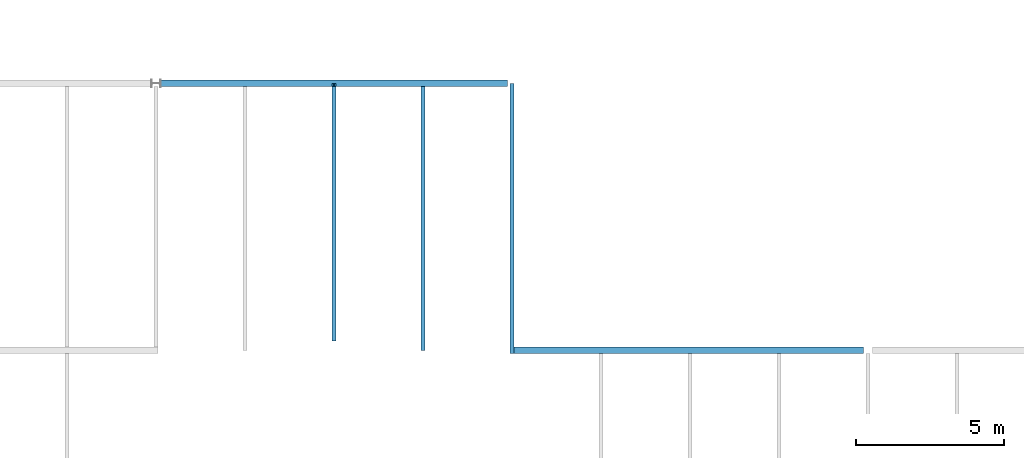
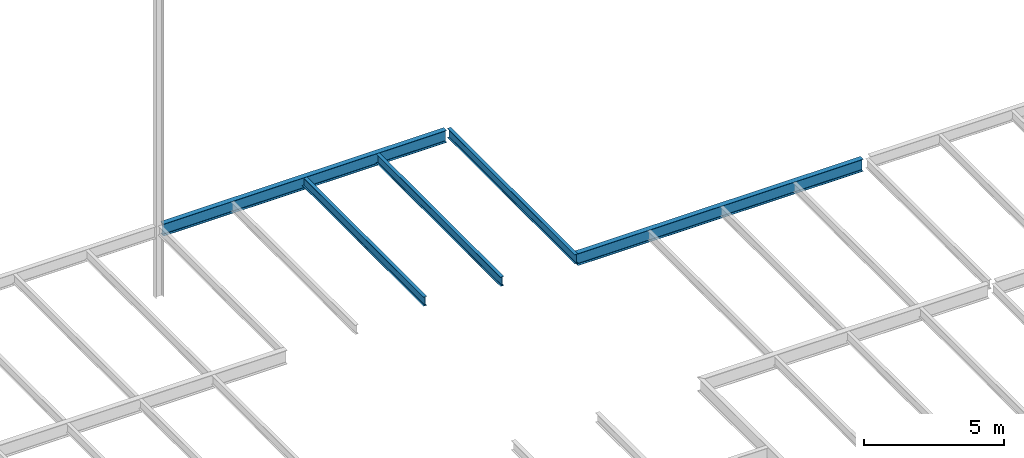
# One storey, part 15 of 23: 5 beams.
"""IFC2X3 building model written with IfcOpenShell, lengths in millimetres."""

from ifc_helpers import new_model, si_unit, origin, place, context, project, spatial, faceted_brep, material, element, save


model = new_model("IFC2X3")

# Units and contexts
context_of_model = context(None, 3, precision=1e-05, world=origin())
ifc_project = project(units=[si_unit("LENGTHUNIT", "METRE", prefix="MILLI")], contexts=[context_of_model])

# Building, storey
building = spatial("IfcBuilding", under=ifc_project, Name="Building", CompositionType="ELEMENT")
storey = spatial("IfcBuildingStorey", under=building, Name="FL5-FRM", CompositionType="ELEMENT")

# Beams
ifc_material_1 = material(Name="A992")
beam_1_placement = place(None, origin())
element("IfcBeam", 1, at=beam_1_placement, inside=storey, material=ifc_material_1, Name="Column411", context=context_of_model, shape_type="Brep", body=[
    faceted_brep([(153.0, 35895.5, 17345.0), (153.0, 36104.5, 17345.0), (11847.0, 36104.5, 17345.0), (11847.0, 35895.5, 17345.0), (153.0, 36104.5, 17358.3), (11847.0, 36104.5, 17358.3), (153.0, 36017.4, 17358.3), (11847.0, 36017.4, 17358.3), (153.0, 36014.2, 17358.7), (11847.0, 36014.2, 17358.7), (153.0, 36011.1, 17360.0), (11847.0, 36011.1, 17360.0), (153.0, 36008.5, 17362.0), (11847.0, 36008.5, 17362.0), (153.0, 36006.5, 17364.7), (11847.0, 36006.5, 17364.7), (153.0, 36005.2, 17367.7), (11847.0, 36005.2, 17367.7), (153.0, 36004.8, 17371.0), (11847.0, 36004.8, 17371.0), (153.0, 36004.8, 17847.0), (11847.0, 36004.8, 17847.0), (153.0, 36005.2, 17850.3), (11847.0, 36005.2, 17850.3), (153.0, 36006.5, 17853.3), (11847.0, 36006.5, 17853.3), (153.0, 36008.5, 17856.0), (11847.0, 36008.5, 17856.0), (153.0, 36011.1, 17858.0), (11847.0, 36011.1, 17858.0), (153.0, 36014.2, 17859.3), (11847.0, 36014.2, 17859.3), (153.0, 36017.4, 17859.7), (11847.0, 36017.4, 17859.7), (153.0, 36104.5, 17859.7), (11847.0, 36104.5, 17859.7), (153.0, 36104.5, 17873.0), (11847.0, 36104.5, 17873.0), (153.0, 35895.5, 17873.0), (11847.0, 35895.5, 17873.0), (153.0, 35895.5, 17859.7), (11847.0, 35895.5, 17859.7), (153.0, 35982.6, 17859.7), (11847.0, 35982.6, 17859.7), (153.0, 35985.8, 17859.3), (11847.0, 35985.8, 17859.3), (153.0, 35988.9, 17858.0), (11847.0, 35988.9, 17858.0), (153.0, 35991.5, 17856.0), (11847.0, 35991.5, 17856.0), (153.0, 35993.5, 17853.3), (11847.0, 35993.5, 17853.3), (153.0, 35994.8, 17850.3), (11847.0, 35994.8, 17850.3), (153.0, 35995.3, 17847.0), (11847.0, 35995.3, 17847.0), (153.0, 35995.3, 17371.0), (11847.0, 35995.3, 17371.0), (153.0, 35994.8, 17367.7), (11847.0, 35994.8, 17367.7), (153.0, 35993.5, 17364.7), (11847.0, 35993.5, 17364.7), (153.0, 35991.5, 17362.0), (11847.0, 35991.5, 17362.0), (153.0, 35988.9, 17360.0), (11847.0, 35988.9, 17360.0), (153.0, 35985.8, 17358.7), (11847.0, 35985.8, 17358.7), (153.0, 35982.6, 17358.3), (11847.0, 35982.6, 17358.3), (153.0, 35895.5, 17358.3), (11847.0, 35895.5, 17358.3)], [[[0, 1, 2, 3]], [[1, 4, 5, 2]], [[4, 6, 7, 5]], [[6, 8, 9, 7]], [[8, 10, 11, 9]], [[10, 12, 13, 11]], [[12, 14, 15, 13]], [[14, 16, 17, 15]], [[16, 18, 19, 17]], [[18, 20, 21, 19]], [[20, 22, 23, 21]], [[22, 24, 25, 23]], [[24, 26, 27, 25]], [[26, 28, 29, 27]], [[28, 30, 31, 29]], [[30, 32, 33, 31]], [[32, 34, 35, 33]], [[34, 36, 37, 35]], [[36, 38, 39, 37]], [[38, 40, 41, 39]], [[40, 42, 43, 41]], [[42, 44, 45, 43]], [[44, 46, 47, 45]], [[46, 48, 49, 47]], [[48, 50, 51, 49]], [[50, 52, 53, 51]], [[52, 54, 55, 53]], [[54, 56, 57, 55]], [[56, 58, 59, 57]], [[58, 60, 61, 59]], [[60, 62, 63, 61]], [[62, 64, 65, 63]], [[64, 66, 67, 65]], [[66, 68, 69, 67]], [[68, 70, 71, 69]], [[70, 0, 3, 71]], [[0, 70, 68, 66, 64, 62, 60, 58, 56, 54, 52, 50, 48, 46, 44, 42, 40, 38, 36, 34, 32, 30, 28, 26, 24, 22, 20, 18, 16, 14, 12, 10, 8, 6, 4, 1]], [[3, 2, 5, 7, 9, 11, 13, 15, 17, 19, 21, 23, 25, 27, 29, 31, 33, 35, 37, 39, 41, 43, 45, 47, 49, 51, 53, 55, 57, 59, 61, 63, 65, 67, 69, 71]]]),
])
ifc_material_2 = material(Name="A992")
beam_2_placement = place(None, origin())
element("IfcBeam", 2, at=beam_2_placement, inside=storey, material=ifc_material_2, Name="B278", context=context_of_model, shape_type="Brep", body=[
    faceted_brep([(8930.0, 35895.5, 17474.0), (9070.0, 35895.5, 17474.0), (9070.0, 27000.0, 17474.0), (8930.0, 27000.0, 17474.0), (9070.0, 35895.5, 17482.8), (9070.0, 27000.0, 17482.8), (9013.4, 35895.5, 17482.8), (9013.4, 27000.0, 17482.8), (9010.76, 35895.5, 17483.1), (9010.76, 27000.0, 17483.1), (9008.3, 35895.5, 17484.2), (9008.3, 27000.0, 17484.2), (9006.19, 35895.5, 17485.8), (9006.19, 27000.0, 17485.8), (9004.57, 35895.5, 17487.9), (9004.57, 27000.0, 17487.9), (9003.55, 35895.5, 17490.4), (9003.55, 27000.0, 17490.4), (9003.2, 35895.5, 17493.0), (9003.2, 27000.0, 17493.0), (9003.2, 35895.5, 17854.0), (9003.2, 27000.0, 17854.0), (9003.55, 35895.5, 17856.6), (9003.55, 27000.0, 17856.6), (9004.57, 35895.5, 17859.1), (9004.57, 27000.0, 17859.1), (9006.19, 35895.5, 17861.2), (9006.19, 27000.0, 17861.2), (9008.3, 35895.5, 17862.8), (9008.3, 27000.0, 17862.8), (9010.76, 35895.5, 17863.9), (9010.76, 27000.0, 17863.9), (9013.4, 35895.5, 17864.2), (9013.4, 27000.0, 17864.2), (9070.0, 35895.5, 17864.2), (9070.0, 27000.0, 17864.2), (9070.0, 35895.5, 17873.0), (9070.0, 27000.0, 17873.0), (8930.0, 35895.5, 17873.0), (8930.0, 27000.0, 17873.0), (8930.0, 35895.5, 17864.2), (8930.0, 27000.0, 17864.2), (8986.6, 35895.5, 17864.2), (8986.6, 27000.0, 17864.2), (8989.24, 35895.5, 17863.9), (8989.24, 27000.0, 17863.9), (8991.7, 35895.5, 17862.8), (8991.7, 27000.0, 17862.8), (8993.81, 35895.5, 17861.2), (8993.81, 27000.0, 17861.2), (8995.43, 35895.5, 17859.1), (8995.43, 27000.0, 17859.1), (8996.45, 35895.5, 17856.6), (8996.45, 27000.0, 17856.6), (8996.8, 35895.5, 17854.0), (8996.8, 27000.0, 17854.0), (8996.8, 35895.5, 17493.0), (8996.8, 27000.0, 17493.0), (8996.45, 35895.5, 17490.4), (8996.45, 27000.0, 17490.4), (8995.43, 35895.5, 17487.9), (8995.43, 27000.0, 17487.9), (8993.81, 35895.5, 17485.8), (8993.81, 27000.0, 17485.8), (8991.7, 35895.5, 17484.2), (8991.7, 27000.0, 17484.2), (8989.24, 35895.5, 17483.1), (8989.24, 27000.0, 17483.1), (8986.6, 35895.5, 17482.8), (8986.6, 27000.0, 17482.8), (8930.0, 35895.5, 17482.8), (8930.0, 27000.0, 17482.8)], [[[0, 1, 2, 3]], [[1, 4, 5, 2]], [[4, 6, 7, 5]], [[6, 8, 9, 7]], [[8, 10, 11, 9]], [[10, 12, 13, 11]], [[12, 14, 15, 13]], [[14, 16, 17, 15]], [[16, 18, 19, 17]], [[18, 20, 21, 19]], [[20, 22, 23, 21]], [[22, 24, 25, 23]], [[24, 26, 27, 25]], [[26, 28, 29, 27]], [[28, 30, 31, 29]], [[30, 32, 33, 31]], [[32, 34, 35, 33]], [[34, 36, 37, 35]], [[36, 38, 39, 37]], [[38, 40, 41, 39]], [[40, 42, 43, 41]], [[42, 44, 45, 43]], [[44, 46, 47, 45]], [[46, 48, 49, 47]], [[48, 50, 51, 49]], [[50, 52, 53, 51]], [[52, 54, 55, 53]], [[54, 56, 57, 55]], [[56, 58, 59, 57]], [[58, 60, 61, 59]], [[60, 62, 63, 61]], [[62, 64, 65, 63]], [[64, 66, 67, 65]], [[66, 68, 69, 67]], [[68, 70, 71, 69]], [[70, 0, 3, 71]], [[0, 70, 68, 66, 64, 62, 60, 58, 56, 54, 52, 50, 48, 46, 44, 42, 40, 38, 36, 34, 32, 30, 28, 26, 24, 22, 20, 18, 16, 14, 12, 10, 8, 6, 4, 1]], [[3, 2, 5, 7, 9, 11, 13, 15, 17, 19, 21, 23, 25, 27, 29, 31, 33, 35, 37, 39, 41, 43, 45, 47, 49, 51, 53, 55, 57, 59, 61, 63, 65, 67, 69, 71]]]),
])
ifc_material_3 = material(Name="A992")
beam_3_placement = place(None, origin())
element("IfcBeam", 3, at=beam_3_placement, inside=storey, material=ifc_material_3, Name="B761", context=context_of_model, shape_type="Brep", body=[
    faceted_brep([(5930.0, 35985.3, 17474.0), (6070.0, 35985.3, 17474.0), (6070.0, 27304.8, 17474.0), (5930.0, 27304.8, 17474.0), (6070.0, 35985.3, 17482.8), (6070.0, 27304.8, 17482.8), (6013.4, 35985.3, 17482.8), (6013.4, 27304.8, 17482.8), (6012.94, 35985.3, 17482.8), (6012.94, 27304.8, 17482.8), (6012.49, 35985.2, 17482.8), (6012.49, 27304.8, 17482.8), (6012.03, 35985.2, 17482.9), (6012.03, 27304.8, 17482.9), (6011.58, 35985.3, 17483.0), (6011.58, 27304.8, 17483.0), (6011.13, 35985.3, 17483.1), (6011.13, 27304.8, 17483.1), (6010.69, 35985.3, 17483.2), (6010.69, 27304.8, 17483.2), (6010.25, 35985.3, 17483.3), (6010.25, 27304.8, 17483.3), (6009.82, 35985.3, 17483.5), (6009.82, 27304.8, 17483.5), (6009.39, 35985.3, 17483.6), (6009.39, 27304.8, 17483.6), (6008.97, 35985.3, 17483.8), (6008.97, 27304.8, 17483.8), (6008.57, 35985.3, 17484.0), (6008.57, 27304.8, 17484.0), (6008.17, 35985.3, 17484.2), (6008.17, 27304.8, 17484.2), (6007.78, 35985.3, 17484.5), (6007.78, 27304.8, 17484.5), (6007.4, 35985.3, 17484.7), (6007.4, 27304.8, 17484.7), (6007.04, 35985.3, 17485.0), (6007.04, 27304.8, 17485.0), (6006.69, 35985.3, 17485.3), (6006.69, 27304.8, 17485.3), (6006.35, 35985.3, 17485.6), (6006.35, 27304.8, 17485.6), (6006.03, 35985.3, 17486.0), (6006.03, 27304.8, 17486.0), (6005.72, 35985.3, 17486.3), (6005.72, 27304.8, 17486.3), (6005.43, 35985.3, 17486.6), (6005.43, 27304.8, 17486.6), (6005.15, 35985.3, 17487.0), (6005.15, 27304.8, 17487.0), (6004.89, 35985.3, 17487.4), (6004.89, 27304.8, 17487.4), (6004.64, 35985.3, 17487.8), (6004.64, 27304.8, 17487.8), (6004.42, 35985.3, 17488.2), (6004.42, 27304.8, 17488.2), (6004.21, 35985.3, 17488.6), (6004.21, 27304.8, 17488.6), (6004.02, 35985.3, 17489.0), (6004.02, 27304.8, 17489.0), (6003.85, 35985.3, 17489.4), (6003.85, 27304.8, 17489.4), (6003.7, 35985.3, 17489.8), (6003.7, 27304.8, 17489.8), (6003.57, 35985.2, 17490.3), (6003.57, 27304.8, 17490.3), (6003.46, 35985.2, 17490.7), (6003.46, 27304.8, 17490.7), (6003.36, 35985.2, 17491.2), (6003.36, 27304.8, 17491.2), (6003.29, 35985.2, 17491.6), (6003.29, 27304.8, 17491.6), (6003.24, 35985.2, 17492.1), (6003.24, 27304.8, 17492.1), (6003.21, 35985.2, 17492.5), (6003.21, 27304.8, 17492.5), (6003.2, 35985.2, 17493.0), (6003.2, 27304.8, 17493.0), (6003.2, 35985.3, 17849.7), (6003.2, 35895.5, 17849.7), (6003.2, 35895.1, 17849.7), (6003.2, 35894.6, 17849.7), (6003.2, 35894.2, 17849.8), (6003.2, 35893.7, 17849.9), (6003.2, 35893.3, 17849.9), (6003.2, 35892.8, 17850.1), (6003.2, 35892.4, 17850.2), (6003.2, 35892.0, 17850.3), (6003.2, 35891.6, 17850.5), (6003.2, 35891.2, 17850.7), (6003.2, 35890.8, 17850.9), (6003.2, 35890.4, 17851.1), (6003.2, 35890.0, 17851.3), (6003.2, 35889.6, 17851.6), (6003.2, 35889.3, 17851.9), (6003.2, 35888.9, 17852.2), (6003.2, 35888.6, 17852.5), (6003.2, 35888.3, 17852.8), (6003.2, 35888.0, 17853.1), (6003.2, 35887.7, 17853.5), (6003.2, 35887.4, 17853.8), (6003.2, 35887.3, 17854.0), (6003.2, 27304.8, 17854.0), (6003.2, 35887.2, 17854.2), (6003.21, 35887.0, 17854.4), (6003.21, 27304.8, 17854.4), (6003.22, 35886.9, 17854.6), (6003.24, 35886.7, 17854.9), (6003.24, 27304.8, 17854.9), (6003.25, 35886.7, 17855.0), (6003.29, 35886.5, 17855.3), (6003.29, 27304.8, 17855.3), (6003.29, 35886.5, 17855.4), (6003.35, 35886.3, 17855.8), (6003.35, 35886.3, 17855.8), (6003.35, 27304.8, 17855.8), (6003.44, 35886.1, 17856.2), (6003.44, 35886.1, 17856.2), (6003.44, 27304.8, 17856.2), (6003.54, 35886.0, 17856.6), (6003.55, 35886.0, 17856.6), (6003.55, 27304.8, 17856.6), (6003.66, 35885.9, 17857.0), (6003.67, 35885.9, 17857.1), (6003.67, 27304.8, 17857.1), (6003.81, 35885.8, 17857.5), (6003.82, 35885.7, 17857.5), (6003.82, 27304.8, 17857.5), (6003.98, 35885.7, 17857.9), (6003.98, 27304.8, 17857.9), (6003.98, 35885.7, 17857.9), (6004.16, 35885.6, 17858.3), (6004.16, 27304.8, 17858.3), (6004.17, 35885.6, 17858.3), (6004.35, 35885.5, 17858.7), (6004.35, 27304.8, 17858.7), (6004.4, 35885.5, 17858.8), (6004.57, 35885.5, 17859.1), (6004.57, 27304.8, 17859.1), (6004.65, 35885.5, 17859.2), (6004.8, 35885.5, 17859.5), (6004.8, 27304.8, 17859.5), (6004.94, 35885.5, 17859.7), (6005.04, 35885.5, 17859.9), (6005.04, 27304.8, 17859.9), (6005.31, 35885.5, 17860.2), (6005.31, 27304.8, 17860.2), (6005.59, 35885.5, 17860.6), (6005.59, 27304.8, 17860.6), (6005.88, 35885.5, 17860.9), (6005.88, 27304.8, 17860.9), (6006.19, 35885.5, 17861.2), (6006.19, 27304.8, 17861.2), (6006.51, 35885.5, 17861.5), (6006.51, 27304.8, 17861.5), (6006.84, 35885.5, 17861.8), (6006.84, 27304.8, 17861.8), (6007.19, 35885.5, 17862.1), (6007.19, 27304.8, 17862.1), (6007.55, 35885.5, 17862.4), (6007.55, 27304.8, 17862.4), (6007.92, 35885.5, 17862.6), (6007.92, 27304.8, 17862.6), (6008.3, 35885.5, 17862.8), (6008.3, 27304.8, 17862.8), (6008.69, 35885.5, 17863.0), (6008.69, 27304.8, 17863.0), (6009.09, 35885.5, 17863.2), (6009.09, 27304.8, 17863.2), (6009.5, 35885.5, 17863.4), (6009.5, 27304.8, 17863.4), (6009.91, 35885.5, 17863.6), (6009.91, 27304.8, 17863.6), (6010.33, 35885.5, 17863.7), (6010.33, 27304.8, 17863.7), (6010.76, 35885.5, 17863.9), (6010.76, 27304.8, 17863.9), (6011.19, 35885.5, 17864.0), (6011.19, 27304.8, 17864.0), (6011.63, 35885.5, 17864.0), (6011.63, 27304.8, 17864.0), (6012.07, 35885.5, 17864.1), (6012.07, 27304.8, 17864.1), (6012.51, 35885.5, 17864.2), (6012.51, 27304.8, 17864.2), (6012.96, 35885.5, 17864.2), (6012.96, 27304.8, 17864.2), (6013.4, 35885.5, 17864.2), (6013.4, 27304.8, 17864.2), (6070.0, 35885.5, 17864.2), (6070.0, 27304.8, 17864.2), (6070.0, 35885.5, 17873.0), (6070.0, 27304.8, 17873.0), (5930.0, 35885.5, 17873.0), (5930.0, 27304.8, 17873.0), (5930.0, 35885.5, 17864.2), (5930.0, 27304.8, 17864.2), (5986.6, 35885.5, 17864.2), (5986.6, 27304.8, 17864.2), (5987.04, 35885.5, 17864.2), (5987.04, 27304.8, 17864.2), (5987.49, 35885.5, 17864.2), (5987.49, 27304.8, 17864.2), (5987.93, 35885.5, 17864.1), (5987.93, 27304.8, 17864.1), (5988.37, 35885.5, 17864.0), (5988.37, 27304.8, 17864.0), (5988.81, 35885.5, 17864.0), (5988.81, 27304.8, 17864.0), (5989.24, 35885.5, 17863.9), (5989.24, 27304.8, 17863.9), (5989.67, 35885.5, 17863.7), (5989.67, 27304.8, 17863.7), (5990.09, 35885.5, 17863.6), (5990.09, 27304.8, 17863.6), (5990.5, 35885.5, 17863.4), (5990.5, 27304.8, 17863.4), (5990.91, 35885.5, 17863.2), (5990.91, 27304.8, 17863.2), (5991.31, 35885.5, 17863.0), (5991.31, 27304.8, 17863.0), (5991.7, 35885.5, 17862.8), (5991.7, 27304.8, 17862.8), (5992.08, 35885.5, 17862.6), (5992.08, 27304.8, 17862.6), (5992.45, 35885.5, 17862.4), (5992.45, 27304.8, 17862.4), (5992.81, 35885.5, 17862.1), (5992.81, 27304.8, 17862.1), (5993.16, 35885.5, 17861.8), (5993.16, 27304.8, 17861.8), (5993.49, 35885.5, 17861.5), (5993.49, 27304.8, 17861.5), (5993.81, 35885.5, 17861.2), (5993.81, 27304.8, 17861.2), (5994.12, 35885.5, 17860.9), (5994.12, 27304.8, 17860.9), (5994.41, 35885.5, 17860.6), (5994.41, 27304.8, 17860.6), (5994.69, 35885.5, 17860.2), (5994.69, 27304.8, 17860.2), (5994.96, 35885.5, 17859.9), (5994.96, 27304.8, 17859.9), (5995.06, 35885.5, 17859.7), (5995.2, 35885.5, 17859.5), (5995.2, 27304.8, 17859.5), (5995.35, 35885.5, 17859.2), (5995.43, 35885.5, 17859.1), (5995.43, 27304.8, 17859.1), (5995.6, 35885.5, 17858.8), (5995.65, 35885.5, 17858.7), (5995.65, 27304.8, 17858.7), (5995.83, 35885.6, 17858.3), (5995.84, 35885.6, 17858.3), (5995.84, 27304.8, 17858.3), (5996.02, 35885.7, 17857.9), (5996.02, 35885.7, 17857.9), (5996.02, 27304.8, 17857.9), (5996.18, 35885.7, 17857.5), (5996.18, 27304.8, 17857.5), (5996.19, 35885.8, 17857.5), (5996.33, 35885.9, 17857.1), (5996.33, 27304.8, 17857.1), (5996.34, 35885.9, 17857.0), (5996.45, 35886.0, 17856.6), (5996.45, 27304.8, 17856.6), (5996.46, 35886.0, 17856.6), (5996.56, 35886.1, 17856.2), (5996.56, 27304.8, 17856.2), (5996.56, 35886.1, 17856.2), (5996.65, 35886.3, 17855.8), (5996.65, 27304.8, 17855.8), (5996.65, 35886.3, 17855.8), (5996.71, 35886.5, 17855.4), (5996.71, 35886.5, 17855.3), (5996.71, 27304.8, 17855.3), (5996.75, 35886.7, 17855.0), (5996.76, 35886.7, 17854.9), (5996.76, 27304.8, 17854.9), (5996.78, 35886.9, 17854.6), (5996.79, 35887.0, 17854.4), (5996.79, 27304.8, 17854.4), (5996.8, 35887.2, 17854.2), (5996.8, 35887.3, 17854.0), (5996.8, 27304.8, 17854.0), (5996.8, 35887.4, 17853.8), (5996.8, 35887.7, 17853.5), (5996.8, 35888.0, 17853.1), (5996.8, 35888.3, 17852.8), (5996.8, 35888.6, 17852.5), (5996.8, 35888.9, 17852.2), (5996.8, 35889.3, 17851.9), (5996.8, 35889.6, 17851.6), (5996.8, 35890.0, 17851.3), (5996.8, 35890.4, 17851.1), (5996.8, 35890.8, 17850.9), (5996.8, 35891.2, 17850.7), (5996.8, 35891.6, 17850.5), (5996.8, 35892.0, 17850.3), (5996.8, 35892.4, 17850.2), (5996.8, 35892.8, 17850.1), (5996.8, 35893.3, 17849.9), (5996.8, 35893.7, 17849.9), (5996.8, 35894.2, 17849.8), (5996.8, 35894.6, 17849.7), (5996.8, 35895.1, 17849.7), (5996.8, 35895.5, 17849.7), (5996.8, 35985.2, 17849.7), (5996.8, 35985.2, 17493.0), (5996.8, 27304.8, 17493.0), (5996.79, 35985.3, 17492.5), (5996.79, 27304.8, 17492.5), (5996.76, 35985.3, 17492.1), (5996.76, 27304.8, 17492.1), (5996.71, 35985.3, 17491.6), (5996.71, 27304.8, 17491.6), (5996.64, 35985.3, 17491.2), (5996.64, 27304.8, 17491.2), (5996.54, 35985.3, 17490.7), (5996.54, 27304.8, 17490.7), (5996.43, 35985.3, 17490.3), (5996.43, 27304.8, 17490.3), (5996.3, 35985.3, 17489.8), (5996.3, 27304.8, 17489.8), (5996.15, 35985.3, 17489.4), (5996.15, 27304.8, 17489.4), (5995.98, 35985.3, 17489.0), (5995.98, 27304.8, 17489.0), (5995.79, 35985.3, 17488.6), (5995.79, 27304.8, 17488.6), (5995.58, 35985.3, 17488.2), (5995.58, 27304.8, 17488.2), (5995.36, 35985.3, 17487.8), (5995.36, 27304.8, 17487.8), (5995.11, 35985.3, 17487.4), (5995.11, 27304.8, 17487.4), (5994.85, 35985.3, 17487.0), (5994.85, 27304.8, 17487.0), (5994.57, 35985.3, 17486.6), (5994.57, 27304.8, 17486.6), (5994.28, 35985.3, 17486.3), (5994.28, 27304.8, 17486.3), (5993.97, 35985.3, 17486.0), (5993.97, 27304.8, 17486.0), (5993.65, 35985.3, 17485.6), (5993.65, 27304.8, 17485.6), (5993.31, 35985.3, 17485.3), (5993.31, 27304.8, 17485.3), (5992.96, 35985.3, 17485.0), (5992.96, 27304.8, 17485.0), (5992.6, 35985.3, 17484.7), (5992.6, 27304.8, 17484.7), (5992.22, 35985.3, 17484.5), (5992.22, 27304.8, 17484.5), (5991.83, 35985.3, 17484.2), (5991.83, 27304.8, 17484.2), (5991.43, 35985.3, 17484.0), (5991.43, 27304.8, 17484.0), (5991.03, 35985.3, 17483.8), (5991.03, 27304.8, 17483.8), (5990.61, 35985.3, 17483.6), (5990.61, 27304.8, 17483.6), (5990.18, 35985.3, 17483.5), (5990.18, 27304.8, 17483.5), (5989.75, 35985.3, 17483.3), (5989.75, 27304.8, 17483.3), (5989.31, 35985.3, 17483.2), (5989.31, 27304.8, 17483.2), (5988.87, 35985.3, 17483.1), (5988.87, 27304.8, 17483.1), (5988.42, 35985.3, 17483.0), (5988.42, 27304.8, 17483.0), (5987.97, 35985.3, 17482.9), (5987.97, 27304.8, 17482.9), (5987.51, 35985.3, 17482.8), (5987.51, 27304.8, 17482.8), (5987.06, 35985.3, 17482.8), (5987.06, 27304.8, 17482.8), (5986.6, 35985.3, 17482.8), (5986.6, 27304.8, 17482.8), (5930.0, 35985.3, 17482.8), (5930.0, 27304.8, 17482.8)], [[[0, 1, 2, 3]], [[1, 4, 5, 2]], [[4, 6, 7, 5]], [[6, 8, 9, 7]], [[8, 10, 11, 9]], [[10, 12, 13, 11]], [[12, 14, 15, 13]], [[14, 16, 17, 15]], [[16, 18, 19, 17]], [[18, 20, 21, 19]], [[20, 22, 23, 21]], [[22, 24, 25, 23]], [[24, 26, 27, 25]], [[26, 28, 29, 27]], [[28, 30, 31, 29]], [[30, 32, 33, 31]], [[32, 34, 35, 33]], [[34, 36, 37, 35]], [[36, 38, 39, 37]], [[38, 40, 41, 39]], [[40, 42, 43, 41]], [[42, 44, 45, 43]], [[44, 46, 47, 45]], [[46, 48, 49, 47]], [[48, 50, 51, 49]], [[50, 52, 53, 51]], [[52, 54, 55, 53]], [[54, 56, 57, 55]], [[56, 58, 59, 57]], [[58, 60, 61, 59]], [[60, 62, 63, 61]], [[62, 64, 65, 63]], [[64, 66, 67, 65]], [[66, 68, 69, 67]], [[68, 70, 71, 69]], [[70, 72, 73, 71]], [[72, 74, 75, 73]], [[74, 76, 77, 75]], [[76, 78, 79, 80, 81, 82, 83, 84, 85, 86, 87, 88, 89, 90, 91, 92, 93, 94, 95, 96, 97, 98, 99, 100, 101, 102, 77]], [[101, 103, 104, 105, 102]], [[104, 106, 107, 108, 105]], [[107, 109, 110, 111, 108]], [[110, 112, 113, 114, 115, 111]], [[114, 116, 117, 118, 115]], [[117, 119, 120, 121, 118]], [[120, 122, 123, 124, 121]], [[123, 125, 126, 127, 124]], [[126, 128, 129, 127]], [[128, 130, 131, 132, 129]], [[131, 133, 134, 135, 132]], [[134, 136, 137, 138, 135]], [[137, 139, 140, 141, 138]], [[140, 142, 143, 144, 141]], [[143, 145, 146, 144]], [[145, 147, 148, 146]], [[147, 149, 150, 148]], [[149, 151, 152, 150]], [[151, 153, 154, 152]], [[153, 155, 156, 154]], [[155, 157, 158, 156]], [[157, 159, 160, 158]], [[159, 161, 162, 160]], [[161, 163, 164, 162]], [[163, 165, 166, 164]], [[165, 167, 168, 166]], [[167, 169, 170, 168]], [[169, 171, 172, 170]], [[171, 173, 174, 172]], [[173, 175, 176, 174]], [[175, 177, 178, 176]], [[177, 179, 180, 178]], [[179, 181, 182, 180]], [[181, 183, 184, 182]], [[183, 185, 186, 184]], [[185, 187, 188, 186]], [[187, 189, 190, 188]], [[189, 191, 192, 190]], [[191, 193, 194, 192]], [[193, 195, 196, 194]], [[195, 197, 198, 196]], [[197, 199, 200, 198]], [[199, 201, 202, 200]], [[201, 203, 204, 202]], [[203, 205, 206, 204]], [[205, 207, 208, 206]], [[207, 209, 210, 208]], [[209, 211, 212, 210]], [[211, 213, 214, 212]], [[213, 215, 216, 214]], [[215, 217, 218, 216]], [[217, 219, 220, 218]], [[219, 221, 222, 220]], [[221, 223, 224, 222]], [[223, 225, 226, 224]], [[225, 227, 228, 226]], [[227, 229, 230, 228]], [[229, 231, 232, 230]], [[231, 233, 234, 232]], [[233, 235, 236, 234]], [[235, 237, 238, 236]], [[237, 239, 240, 238]], [[239, 241, 242, 240]], [[241, 243, 244, 245, 242]], [[244, 246, 247, 248, 245]], [[247, 249, 250, 251, 248]], [[250, 252, 253, 254, 251]], [[253, 255, 256, 257, 254]], [[256, 258, 259, 257]], [[258, 260, 261, 262, 259]], [[261, 263, 264, 265, 262]], [[264, 266, 267, 268, 265]], [[267, 269, 270, 271, 268]], [[270, 272, 273, 274, 275, 271]], [[274, 276, 277, 278, 275]], [[277, 279, 280, 281, 278]], [[280, 282, 283, 284, 281]], [[283, 285, 286, 287, 288, 289, 290, 291, 292, 293, 294, 295, 296, 297, 298, 299, 300, 301, 302, 303, 304, 305, 306, 307, 308, 309, 284]], [[308, 310, 311, 309]], [[310, 312, 313, 311]], [[312, 314, 315, 313]], [[314, 316, 317, 315]], [[316, 318, 319, 317]], [[318, 320, 321, 319]], [[320, 322, 323, 321]], [[322, 324, 325, 323]], [[324, 326, 327, 325]], [[326, 328, 329, 327]], [[328, 330, 331, 329]], [[330, 332, 333, 331]], [[332, 334, 335, 333]], [[334, 336, 337, 335]], [[336, 338, 339, 337]], [[338, 340, 341, 339]], [[340, 342, 343, 341]], [[342, 344, 345, 343]], [[344, 346, 347, 345]], [[346, 348, 349, 347]], [[348, 350, 351, 349]], [[350, 352, 353, 351]], [[352, 354, 355, 353]], [[354, 356, 357, 355]], [[356, 358, 359, 357]], [[358, 360, 361, 359]], [[360, 362, 363, 361]], [[362, 364, 365, 363]], [[364, 366, 367, 365]], [[366, 368, 369, 367]], [[368, 370, 371, 369]], [[370, 372, 373, 371]], [[372, 374, 375, 373]], [[374, 376, 377, 375]], [[376, 378, 379, 377]], [[378, 380, 381, 379]], [[380, 0, 3, 381]], [[3, 2, 5, 7, 9, 11, 13, 15, 17, 19, 21, 23, 25, 27, 29, 31, 33, 35, 37, 39, 41, 43, 45, 47, 49, 51, 53, 55, 57, 59, 61, 63, 65, 67, 69, 71, 73, 75, 77, 102, 105, 108, 111, 115, 118, 121, 124, 127, 129, 132, 135, 138, 141, 144, 146, 148, 150, 152, 154, 156, 158, 160, 162, 164, 166, 168, 170, 172, 174, 176, 178, 180, 182, 184, 186, 188, 190, 192, 194, 196, 198, 200, 202, 204, 206, 208, 210, 212, 214, 216, 218, 220, 222, 224, 226, 228, 230, 232, 234, 236, 238, 240, 242, 245, 248, 251, 254, 257, 259, 262, 265, 268, 271, 275, 278, 281, 284, 309, 311, 313, 315, 317, 319, 321, 323, 325, 327, 329, 331, 333, 335, 337, 339, 341, 343, 345, 347, 349, 351, 353, 355, 357, 359, 361, 363, 365, 367, 369, 371, 373, 375, 377, 379, 381]], [[307, 78, 76, 74, 72, 70, 68, 66, 64, 62, 60, 58, 56, 54, 52, 50, 48, 46, 44, 42, 40, 38, 36, 34, 32, 30, 28, 26, 24, 22, 20, 18, 16, 14, 12, 10, 8, 6, 4, 1, 0, 380, 378, 376, 374, 372, 370, 368, 366, 364, 362, 360, 358, 356, 354, 352, 350, 348, 346, 344, 342, 340, 338, 336, 334, 332, 330, 328, 326, 324, 322, 320, 318, 316, 314, 312, 310, 308]], [[78, 307, 306, 79]], [[79, 306, 305, 80]], [[80, 305, 304, 81]], [[81, 304, 303, 82]], [[82, 303, 302, 83]], [[83, 302, 301, 84]], [[84, 301, 300, 85]], [[85, 300, 299, 86]], [[86, 299, 298, 87]], [[87, 298, 297, 88]], [[88, 297, 296, 89]], [[89, 296, 295, 90]], [[90, 295, 294, 91]], [[91, 294, 293, 92]], [[92, 293, 292, 93]], [[93, 292, 291, 94]], [[94, 291, 290, 95]], [[95, 290, 289, 96]], [[96, 289, 288, 97]], [[97, 288, 287, 98]], [[98, 287, 286, 99]], [[99, 286, 285, 100]], [[100, 285, 283, 282, 103, 101]], [[103, 282, 280, 279, 106, 104]], [[106, 279, 277, 276, 109, 107]], [[109, 276, 274, 273, 112, 110]], [[112, 273, 272, 113]], [[113, 272, 270, 269, 116, 114]], [[116, 269, 267, 266, 119, 117]], [[119, 266, 264, 263, 122, 120]], [[122, 263, 261, 260, 125, 123]], [[125, 260, 258, 256, 255, 130, 128, 126]], [[130, 255, 253, 252, 133, 131]], [[133, 252, 250, 249, 136, 134]], [[136, 249, 247, 246, 139, 137]], [[139, 246, 244, 243, 142, 140]], [[142, 243, 241, 239, 237, 235, 233, 231, 229, 227, 225, 223, 221, 219, 217, 215, 213, 211, 209, 207, 205, 203, 201, 199, 197, 195, 193, 191, 189, 187, 185, 183, 181, 179, 177, 175, 173, 171, 169, 167, 165, 163, 161, 159, 157, 155, 153, 151, 149, 147, 145, 143]]]),
])
ifc_material_4 = material(Name="A992")
beam_4_placement = place(None, origin())
element("IfcBeam", 4, at=beam_4_placement, inside=storey, material=ifc_material_4, Name="B801", context=context_of_model, shape_type="Brep", body=[
    faceted_brep([(11930.0, 35995.6, 17474.0), (12070.0, 35995.6, 17474.0), (12070.0, 26895.5, 17474.0), (11930.0, 26895.5, 17474.0), (12070.0, 35995.6, 17482.8), (12070.0, 26895.5, 17482.8), (12013.4, 35995.6, 17482.8), (12013.4, 26895.5, 17482.8), (12010.8, 35995.6, 17483.1), (12010.8, 26895.5, 17483.1), (12008.3, 35995.6, 17484.2), (12008.3, 26895.5, 17484.2), (12006.2, 35995.6, 17485.8), (12006.2, 26895.5, 17485.8), (12004.6, 35995.6, 17487.9), (12004.6, 26895.5, 17487.9), (12003.5, 35995.6, 17490.4), (12003.5, 26895.5, 17490.4), (12003.2, 35995.6, 17493.0), (12003.2, 26895.5, 17493.0), (12003.2, 35995.6, 17854.0), (12003.2, 26895.5, 17854.0), (12003.5, 35995.6, 17856.6), (12003.5, 26895.5, 17856.6), (12004.6, 35995.6, 17859.1), (12004.6, 26895.5, 17859.1), (12006.2, 35995.6, 17861.2), (12006.2, 26895.5, 17861.2), (12008.3, 35995.6, 17862.8), (12008.3, 26895.5, 17862.8), (12010.8, 35995.6, 17863.9), (12010.8, 26895.5, 17863.9), (12013.4, 35995.6, 17864.2), (12013.4, 26895.5, 17864.2), (12070.0, 35995.6, 17864.2), (12070.0, 26895.5, 17864.2), (12070.0, 35995.6, 17873.0), (12070.0, 26895.5, 17873.0), (11930.0, 35995.6, 17873.0), (11930.0, 26895.5, 17873.0), (11930.0, 35995.6, 17864.2), (11930.0, 26895.5, 17864.2), (11986.6, 35995.6, 17864.2), (11986.6, 26895.5, 17864.2), (11989.2, 35995.6, 17863.9), (11989.2, 26895.5, 17863.9), (11991.7, 35995.6, 17862.8), (11991.7, 26895.5, 17862.8), (11993.8, 35995.6, 17861.2), (11993.8, 26895.5, 17861.2), (11995.4, 35995.6, 17859.1), (11995.4, 26895.5, 17859.1), (11996.5, 35995.6, 17856.6), (11996.5, 26895.5, 17856.6), (11996.8, 35995.6, 17854.0), (11996.8, 26895.5, 17854.0), (11996.8, 35995.6, 17493.0), (11996.8, 26895.5, 17493.0), (11996.5, 35995.6, 17490.4), (11996.5, 26895.5, 17490.4), (11995.4, 35995.6, 17487.9), (11995.4, 26895.5, 17487.9), (11993.8, 35995.6, 17485.8), (11993.8, 26895.5, 17485.8), (11991.7, 35995.6, 17484.2), (11991.7, 26895.5, 17484.2), (11989.2, 35995.6, 17483.1), (11989.2, 26895.5, 17483.1), (11986.6, 35995.6, 17482.8), (11986.6, 26895.5, 17482.8), (11930.0, 35995.6, 17482.8), (11930.0, 26895.5, 17482.8)], [[[0, 1, 2, 3]], [[1, 4, 5, 2]], [[4, 6, 7, 5]], [[6, 8, 9, 7]], [[8, 10, 11, 9]], [[10, 12, 13, 11]], [[12, 14, 15, 13]], [[14, 16, 17, 15]], [[16, 18, 19, 17]], [[18, 20, 21, 19]], [[20, 22, 23, 21]], [[22, 24, 25, 23]], [[24, 26, 27, 25]], [[26, 28, 29, 27]], [[28, 30, 31, 29]], [[30, 32, 33, 31]], [[32, 34, 35, 33]], [[34, 36, 37, 35]], [[36, 38, 39, 37]], [[38, 40, 41, 39]], [[40, 42, 43, 41]], [[42, 44, 45, 43]], [[44, 46, 47, 45]], [[46, 48, 49, 47]], [[48, 50, 51, 49]], [[50, 52, 53, 51]], [[52, 54, 55, 53]], [[54, 56, 57, 55]], [[56, 58, 59, 57]], [[58, 60, 61, 59]], [[60, 62, 63, 61]], [[62, 64, 65, 63]], [[64, 66, 67, 65]], [[66, 68, 69, 67]], [[68, 70, 71, 69]], [[70, 0, 3, 71]], [[0, 70, 68, 66, 64, 62, 60, 58, 56, 54, 52, 50, 48, 46, 44, 42, 40, 38, 36, 34, 32, 30, 28, 26, 24, 22, 20, 18, 16, 14, 12, 10, 8, 6, 4, 1]], [[3, 2, 5, 7, 9, 11, 13, 15, 17, 19, 21, 23, 25, 27, 29, 31, 33, 35, 37, 39, 41, 43, 45, 47, 49, 51, 53, 55, 57, 59, 61, 63, 65, 67, 69, 71]]]),
])
ifc_material_5 = material(Name="A992")
beam_5_placement = place(None, origin())
element("IfcBeam", 5, at=beam_5_placement, inside=storey, material=ifc_material_5, Name="Column586", context=context_of_model, shape_type="Brep", body=[
    faceted_brep([(12070.0, 26895.5, 17345.0), (12070.0, 27104.5, 17345.0), (23847.0, 27104.5, 17345.0), (23847.0, 26895.5, 17345.0), (12070.0, 27104.5, 17358.3), (23847.0, 27104.5, 17358.3), (12070.0, 27017.4, 17358.3), (23847.0, 27017.4, 17358.3), (12070.0, 27014.2, 17358.7), (23847.0, 27014.2, 17358.7), (12070.0, 27011.1, 17360.0), (23847.0, 27011.1, 17360.0), (12070.0, 27008.5, 17362.0), (23847.0, 27008.5, 17362.0), (12070.0, 27006.5, 17364.7), (23847.0, 27006.5, 17364.7), (12070.0, 27005.2, 17367.7), (23847.0, 27005.2, 17367.7), (12070.0, 27004.8, 17371.0), (23847.0, 27004.8, 17371.0), (12070.0, 27004.8, 17847.0), (23847.0, 27004.8, 17847.0), (12070.0, 27005.2, 17850.3), (23847.0, 27005.2, 17850.3), (12070.0, 27006.5, 17853.3), (23847.0, 27006.5, 17853.3), (12070.0, 27008.5, 17856.0), (23847.0, 27008.5, 17856.0), (12070.0, 27011.1, 17858.0), (23847.0, 27011.1, 17858.0), (12070.0, 27014.2, 17859.3), (23847.0, 27014.2, 17859.3), (12070.0, 27017.4, 17859.7), (23847.0, 27017.4, 17859.7), (12070.0, 27104.5, 17859.7), (23847.0, 27104.5, 17859.7), (12070.0, 27104.5, 17873.0), (23847.0, 27104.5, 17873.0), (12070.0, 26895.5, 17873.0), (23847.0, 26895.5, 17873.0), (12070.0, 26895.5, 17859.7), (23847.0, 26895.5, 17859.7), (12070.0, 26982.6, 17859.7), (23847.0, 26982.6, 17859.7), (12070.0, 26985.8, 17859.3), (23847.0, 26985.8, 17859.3), (12070.0, 26988.9, 17858.0), (23847.0, 26988.9, 17858.0), (12070.0, 26991.5, 17856.0), (23847.0, 26991.5, 17856.0), (12070.0, 26993.5, 17853.3), (23847.0, 26993.5, 17853.3), (12070.0, 26994.8, 17850.3), (23847.0, 26994.8, 17850.3), (12070.0, 26995.3, 17847.0), (23847.0, 26995.3, 17847.0), (12070.0, 26995.3, 17371.0), (23847.0, 26995.3, 17371.0), (12070.0, 26994.8, 17367.7), (23847.0, 26994.8, 17367.7), (12070.0, 26993.5, 17364.7), (23847.0, 26993.5, 17364.7), (12070.0, 26991.5, 17362.0), (23847.0, 26991.5, 17362.0), (12070.0, 26988.9, 17360.0), (23847.0, 26988.9, 17360.0), (12070.0, 26985.8, 17358.7), (23847.0, 26985.8, 17358.7), (12070.0, 26982.6, 17358.3), (23847.0, 26982.6, 17358.3), (12070.0, 26895.5, 17358.3), (23847.0, 26895.5, 17358.3)], [[[0, 1, 2, 3]], [[1, 4, 5, 2]], [[4, 6, 7, 5]], [[6, 8, 9, 7]], [[8, 10, 11, 9]], [[10, 12, 13, 11]], [[12, 14, 15, 13]], [[14, 16, 17, 15]], [[16, 18, 19, 17]], [[18, 20, 21, 19]], [[20, 22, 23, 21]], [[22, 24, 25, 23]], [[24, 26, 27, 25]], [[26, 28, 29, 27]], [[28, 30, 31, 29]], [[30, 32, 33, 31]], [[32, 34, 35, 33]], [[34, 36, 37, 35]], [[36, 38, 39, 37]], [[38, 40, 41, 39]], [[40, 42, 43, 41]], [[42, 44, 45, 43]], [[44, 46, 47, 45]], [[46, 48, 49, 47]], [[48, 50, 51, 49]], [[50, 52, 53, 51]], [[52, 54, 55, 53]], [[54, 56, 57, 55]], [[56, 58, 59, 57]], [[58, 60, 61, 59]], [[60, 62, 63, 61]], [[62, 64, 65, 63]], [[64, 66, 67, 65]], [[66, 68, 69, 67]], [[68, 70, 71, 69]], [[70, 0, 3, 71]], [[0, 70, 68, 66, 64, 62, 60, 58, 56, 54, 52, 50, 48, 46, 44, 42, 40, 38, 36, 34, 32, 30, 28, 26, 24, 22, 20, 18, 16, 14, 12, 10, 8, 6, 4, 1]], [[3, 2, 5, 7, 9, 11, 13, 15, 17, 19, 21, 23, 25, 27, 29, 31, 33, 35, 37, 39, 41, 43, 45, 47, 49, 51, 53, 55, 57, 59, 61, 63, 65, 67, 69, 71]]]),
])

save(model, "model.ifc")
